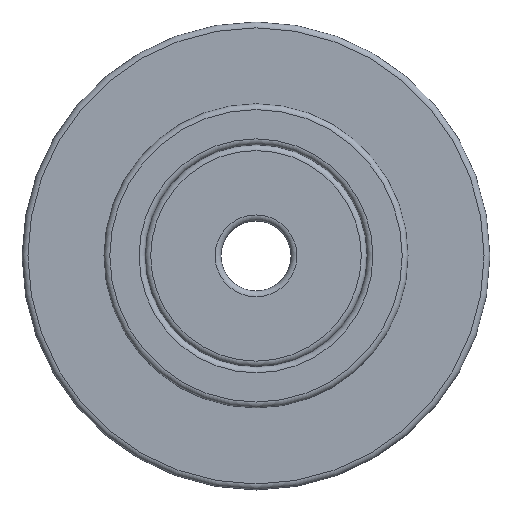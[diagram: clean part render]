
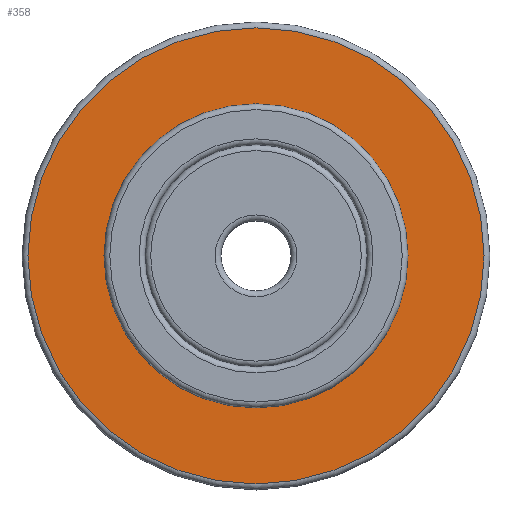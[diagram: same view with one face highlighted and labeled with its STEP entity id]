
A CAD part, top view. The second image highlights one B-rep face of the part: STEP entity #358.
In plain terms, the highlighted planar face has unit normal (0, 0, 1).
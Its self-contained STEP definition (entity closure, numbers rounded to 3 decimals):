
#244=CARTESIAN_POINT('',(13.0,0.,-4.0));
#245=VERTEX_POINT('',#244);
#246=CARTESIAN_POINT('',(0.0,0.0,-4.0));
#247=DIRECTION('',(0.0,0.0,1.0));
#248=DIRECTION('',(-1.0,0.0,0.0));
#249=AXIS2_PLACEMENT_3D('',#246,#247,#248);
#250=CIRCLE('',#249,13.0);
#251=EDGE_CURVE('',#245,#245,#250,.T.);
#304=CARTESIAN_POINT('',(19.5,0.,-4.0));
#305=VERTEX_POINT('',#304);
#306=CARTESIAN_POINT('',(0.0,0.0,-4.0));
#307=DIRECTION('',(0.0,0.0,-1.0));
#308=DIRECTION('',(-1.0,0.0,0.0));
#309=AXIS2_PLACEMENT_3D('',#306,#307,#308);
#310=CIRCLE('',#309,19.5);
#311=EDGE_CURVE('',#305,#305,#310,.T.);
#347=CARTESIAN_POINT('',(0.0,0.0,-4.0));
#348=DIRECTION('',(0.0,0.0,-1.0));
#349=DIRECTION('',(-1.0,0.0,0.0));
#350=AXIS2_PLACEMENT_3D('',#347,#348,#349);
#351=PLANE('',#350);
#352=ORIENTED_EDGE('',*,*,#311,.F.);
#353=EDGE_LOOP('',(#352));
#354=FACE_OUTER_BOUND('',#353,.T.);
#355=ORIENTED_EDGE('',*,*,#251,.F.);
#356=EDGE_LOOP('',(#355));
#357=FACE_BOUND('',#356,.T.);
#358=ADVANCED_FACE('',(#354,#357),#351,.F.);
